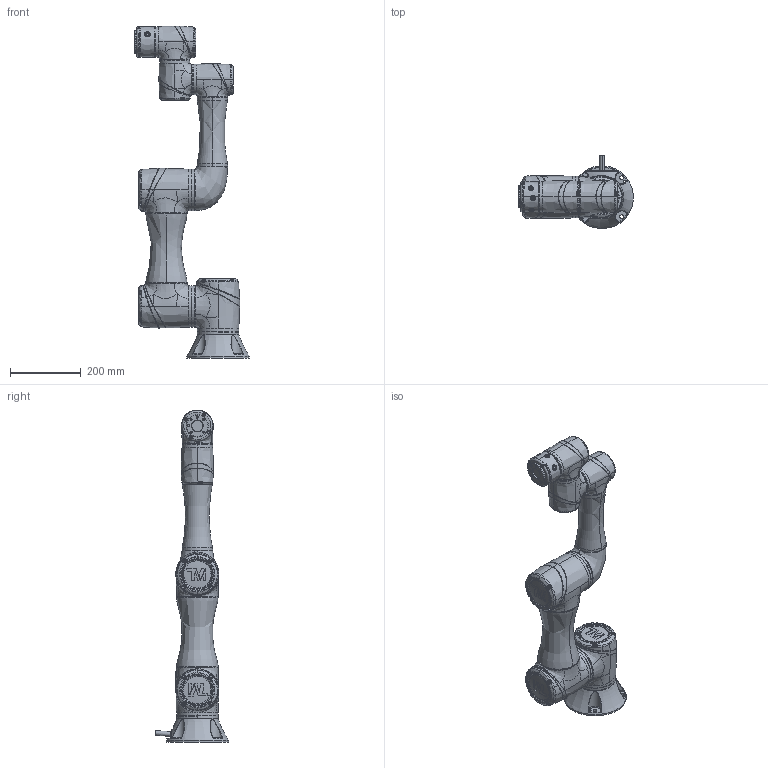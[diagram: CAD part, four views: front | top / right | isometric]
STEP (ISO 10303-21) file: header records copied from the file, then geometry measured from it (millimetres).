
FILE_DESCRIPTION((''),'2;1');
FILE_NAME('TM5A-700_ASM','2018-07-24T',('Jacque.Huang'),(''),'CREO PARAMETRIC BY PTC INC, 2015290','CREO PARAMETRIC BY PTC INC, 2015290','');
FILE_SCHEMA(('CONFIG_CONTROL_DESIGN'));
Products named in the file (18): OFLANGE400_8_2; HS400_8_2; COVER400-UNI_8_4; M3_9_2; JT400-TM5A_ASM; ARM1700_3_1; JL; ARM2700_3_1; OFLANGE100_8_2; HS100-TM5A_7_2; COVER100-UNI_7_4; JT100-TM5A_ASM; IOMX; TM5A-700-WEB_ASM_2_ASM_2_ASM; BS_5_5; WIREASSY_5_1; BASE-TM5A_ASM_5_ASM_2_ASM; TM5A-700_ASM
Assembly tree (27 placements, depth 4):
  TM5A-700_ASM
    TM5A-700-WEB_ASM_2_ASM_2_ASM
      JT400-TM5A_ASM  x3
        OFLANGE400_8_2
        HS400_8_2
        COVER400-UNI_8_4
        M3_9_2
      ARM1700_3_1
      JL
      ARM2700_3_1
      JT100-TM5A_ASM  x3
        OFLANGE100_8_2
        HS100-TM5A_7_2
        COVER100-UNI_7_4
        M3_9_2
      IOMX
    BASE-TM5A_ASM_5_ASM_2_ASM
      BS_5_5
      WIREASSY_5_1
Bounding box: 323.61 x 206.22 x 936.43 mm (x, y, z)
Volume: 12749853.7 mm3; surface area: 937219.9 mm2
Topology: 45 solids, 49 shells, 2505 faces, 6377 edges, 4077 vertices
Faces by surface type: bspline 906, plane 773, cylinder 430, torus 229, cone 107, extrusion 39, revolution 21
Entity records: 61533 total; most frequent: CARTESIAN_POINT 35541, ORIENTED_EDGE 5774, DIRECTION 4802, EDGE_CURVE 2887, AXIS2_PLACEMENT_3D 2008, VERTEX_POINT 1847, EDGE_LOOP 1234, CIRCLE 1151
